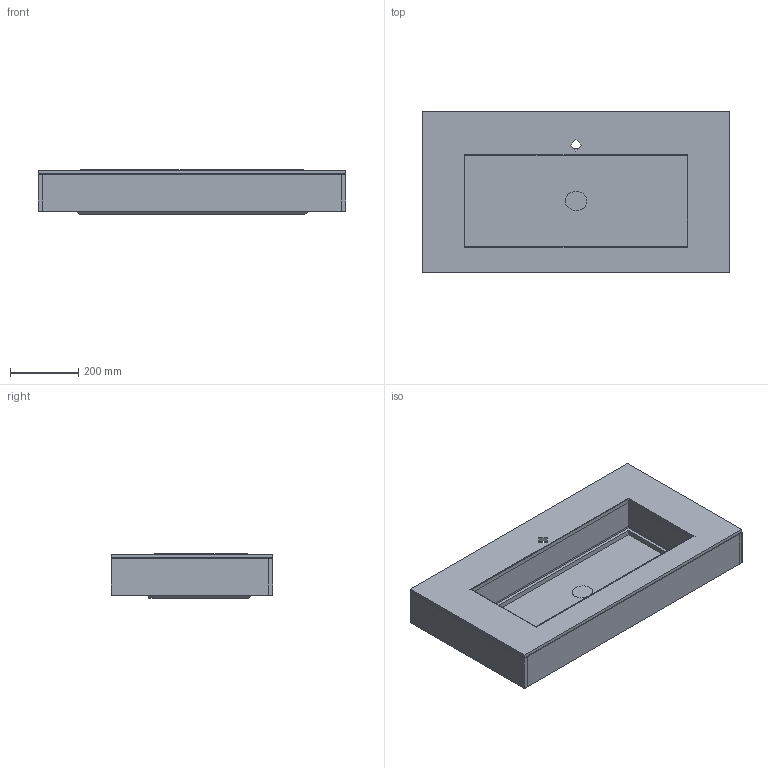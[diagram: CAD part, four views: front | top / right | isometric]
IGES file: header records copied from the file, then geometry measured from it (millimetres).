
Start section: Data from Parasolid IGES Translator 22.0.50, Copyright(c) 2006 Siemens P LM Software. All Rights Reserved.
Global section: file name: noorth-top-H 12 D 47,2 W 90_4370.igs; native system: By Siemens PLM Incorporated; preprocessor: XPlus GENERIC/IGES 22.0.50; author: Noname; organization: Noname; date: 20251109.143614; units: metre
Bounding box: 900 x 472 x 129.29 mm (x, y, z)
Volume: 17008419.5 mm3; surface area: 2123349.7 mm2
Topology: 12 solids, 12 shells, 115 faces, 257 edges, 183 vertices
Faces by surface type: plane 97, bspline 9, extrusion 8, cylinder 1
Full cylindrical faces by diameter (mm): 34.697 x1
